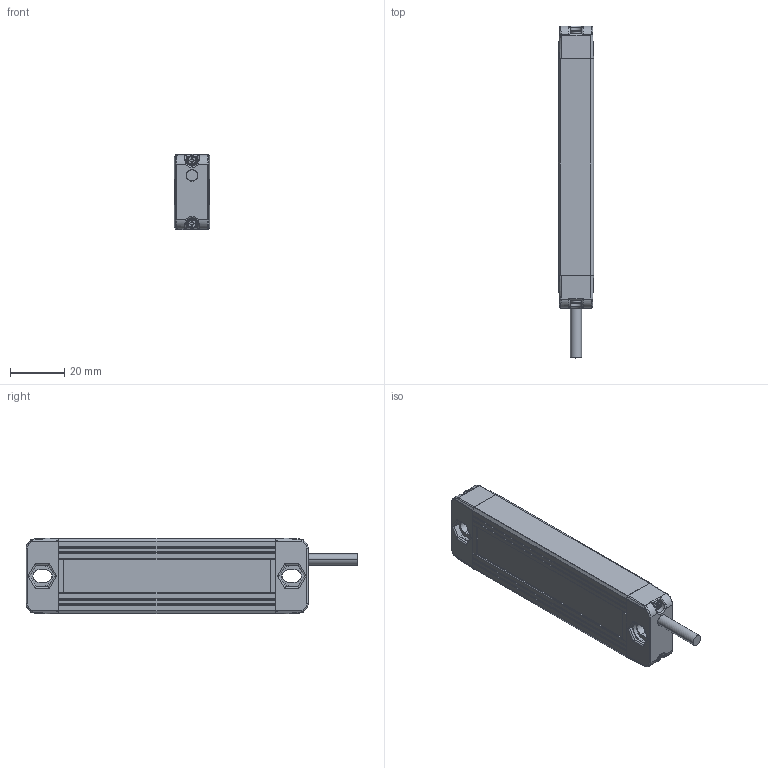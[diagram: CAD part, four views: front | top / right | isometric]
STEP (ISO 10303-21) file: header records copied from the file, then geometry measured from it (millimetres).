
FILE_DESCRIPTION((''),'2;1');
FILE_NAME('EB13-0320_ASM','2021-07-12T16:30:12',('18720616900'),(''),'CREO PARAMETRIC BY PTC INC, 2019010','CREO PARAMETRIC BY PTC INC, 2019010','');
FILE_SCHEMA(('CONFIG_CONTROL_DESIGN'));
Products named in the file (7): EB1300; 000; 0002; 0004; EB13-0320_ASM
Assembly tree (9 placements, depth 2):
  EB13-0320_ASM
    EB1300
    000
    0002
    000
    0004  x4
    000
Bounding box: 13 x 122.4 x 28 mm (x, y, z)
Volume: 37624.8 mm3; surface area: 16196.5 mm2
Topology: 9 solids, 27 shells, 1032 faces, 3520 edges, 2523 vertices
Faces by surface type: cylinder 544, plane 295, bspline 118, torus 40, sphere 31, cone 4
Entity records: 52594 total; most frequent: CARTESIAN_POINT 37957, ORIENTED_EDGE 3370, DIRECTION 2501, EDGE_CURVE 1685, VERTEX_POINT 1150, AXIS2_PLACEMENT_3D 849, VECTOR 803, LINE 803
